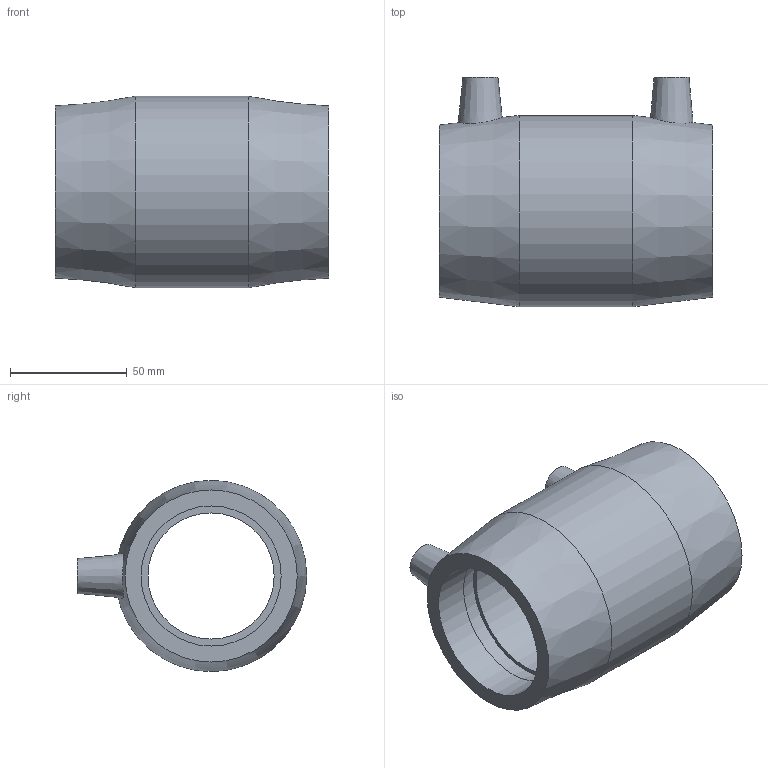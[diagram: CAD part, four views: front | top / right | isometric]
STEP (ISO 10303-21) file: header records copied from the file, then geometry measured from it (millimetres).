
FILE_DESCRIPTION(/* description */ ('PLASSON REDUCING COUPLING ADAPTOR 63-2''''IPS'),/* implementation_level */ '2;1');
FILE_NAME(/* name */ 'C:\Dropbox\KIMPROJECTS-Inventor 2019\99-16-3568-Processing Inch\ASTM ElectroFusion 2021\4911N\4911N4063050.ipt.stp',/* time_stamp */ '2021-08-30T09:48:01+03:00',/* author */ ('KIM'),/* organization */ (''),/* preprocessor_version */ 'ST-DEVELOPER v17.2',/* originating_system */ 'Autodesk Inventor 2019',/* authorisation */ '');
FILE_SCHEMA (('AUTOMOTIVE_DESIGN { 1 0 10303 214 3 1 1 }'));
Length unit declared in the file: inch
Products named in the file (1): 4911N4063050
Bounding box: 117.09 x 98.42 x 82.04 mm (x, y, z)
Volume: 241433.6 mm3; surface area: 59641.4 mm2
Topology: 1 solids, 1 shells, 29 faces, 66 edges, 49 vertices
Faces by surface type: plane 12, cylinder 10, cone 7
Full cylindrical faces by diameter (mm): 4 x2, 10 x2, 54.09 x1, 60.1 x2, 63 x2, 82.042 x1
Entity records: 972 total; most frequent: CARTESIAN_POINT 213, DIRECTION 167, ORIENTED_EDGE 132, AXIS2_PLACEMENT_3D 75, EDGE_CURVE 66, VERTEX_POINT 49, CIRCLE 45, EDGE_LOOP 41
